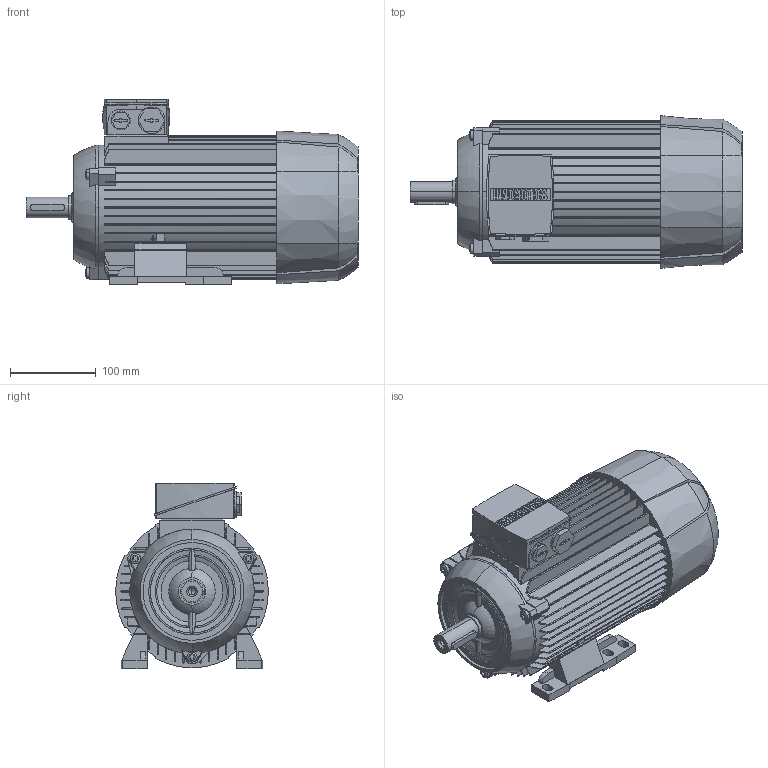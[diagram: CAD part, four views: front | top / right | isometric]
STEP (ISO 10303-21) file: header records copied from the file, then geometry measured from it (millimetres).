
FILE_DESCRIPTION(('STEP AP214'),'1');
FILE_NAME('cctmp_B3902212-7AE6-46E2-8BD6-DE007A9CC7B3_2026_05_04_09_28_52_0834_23080..stp','2026-05-04T07:28:53',('KiM GmbH'),('CADClick - www.CADClick.com'),'Spatial InterOp 3D',' ','unknown authorization');
FILE_SCHEMA(('AUTOMOTIVE_DESIGN'));
Length unit declared in the file: millimetre
Products named in the file (1): 2026_05_04_09_28_52_0834
Bounding box: 387 x 178 x 216 mm (x, y, z)
Volume: 6656930.7 mm3; surface area: 470025.7 mm2
Topology: 1 solids, 1 shells, 789 faces, 2212 edges, 1462 vertices
Faces by surface type: plane 509, cylinder 190, torus 66, cone 24
Entity records: 33561 total; most frequent: CARTESIAN_POINT 6579, ORIENTED_EDGE 4420, DIRECTION 4256, EDGE_CURVE 2210, VERTEX_POINT 1462, LINE 1428, VECTOR 1428, AXIS2_PLACEMENT_3D 1414
